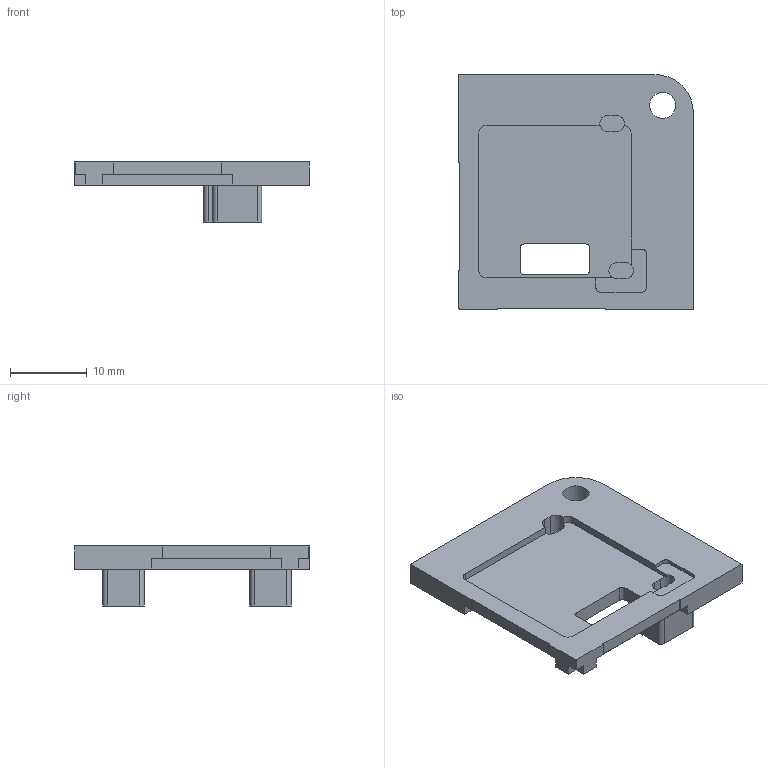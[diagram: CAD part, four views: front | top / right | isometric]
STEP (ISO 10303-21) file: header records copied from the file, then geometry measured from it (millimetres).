
FILE_DESCRIPTION(('Open CASCADE Model'),'2;1');
FILE_NAME('Open CASCADE Shape Model','2026-09-14T09:43:58',('Author'),( 'Open CASCADE'),'Open CASCADE STEP processor 7.9','Open CASCADE 7.9' ,'Unknown');
FILE_SCHEMA(('AUTOMOTIVE_DESIGN { 1 0 10303 214 1 1 1 1 }'));
Length unit declared in the file: millimetre
Products named in the file (1): Open CASCADE STEP translator 7.9 1
Bounding box: 30.5 x 30.5 x 7.8 mm (x, y, z)
Volume: 2395.5 mm3; surface area: 2683.5 mm2
Topology: 1 solids, 1 shells, 99 faces, 279 edges, 186 vertices
Faces by surface type: plane 71, cylinder 28
Full cylindrical faces by diameter (mm): 3.4 x1
Entity records: 6780 total; most frequent: CARTESIAN_POINT 1425, DIRECTION 927, LINE 567, VECTOR 567, ORIENTED_EDGE 558, PCURVE 558, DEFINITIONAL_REPRESENTATION 558, EDGE_CURVE 279
